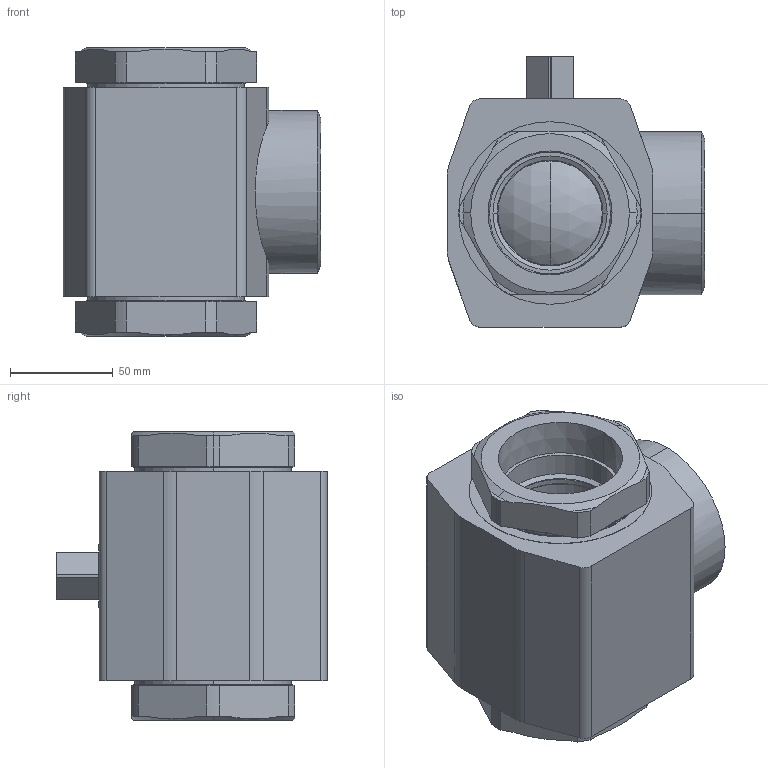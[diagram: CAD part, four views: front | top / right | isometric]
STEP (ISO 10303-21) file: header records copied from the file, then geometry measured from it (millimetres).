
FILE_DESCRIPTION (( 'STEP AP203' ), '1' );
FILE_NAME ('cfm-16TL.STEP', '2022-02-25T16:43:59', ( '' ), ( '' ), 'SwSTEP 2.0', 'SolidWorks 2021', '' );
FILE_SCHEMA (( 'CONFIG_CONTROL_DESIGN' ));
Length unit declared in the file: inch
Products named in the file (1): cfm-16TL
Bounding box: 125.35 x 131.7 x 140.46 mm (x, y, z)
Volume: 947493 mm3; surface area: 109133.3 mm2
Topology: 1 solids, 1 shells, 168 faces, 410 edges, 263 vertices
Faces by surface type: plane 73, cylinder 63, cone 30, sphere 2
Entity records: 5175 total; most frequent: CARTESIAN_POINT 1004, DIRECTION 920, ORIENTED_EDGE 820, EDGE_CURVE 410, AXIS2_PLACEMENT_3D 363, VERTEX_POINT 263, LINE 194, CIRCLE 194
